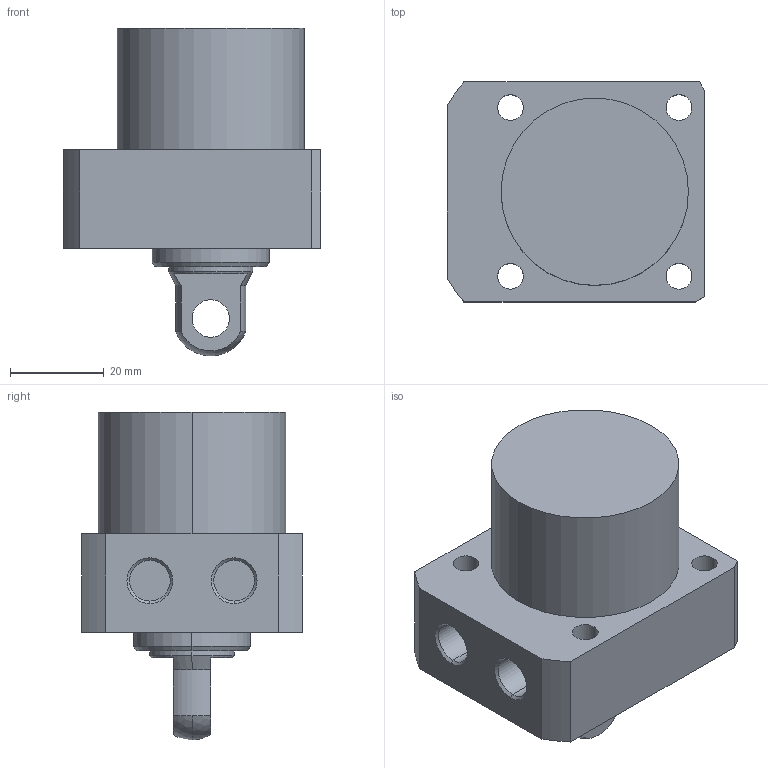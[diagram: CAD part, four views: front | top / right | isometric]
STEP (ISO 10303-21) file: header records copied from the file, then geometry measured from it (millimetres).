
FILE_DESCRIPTION (( 'STEP AP203' ), '1' );
FILE_NAME ('CLL-R040-CP-(01-014).STEP', '2017-05-10T11:20:38', ( '' ), ( '' ), 'SwSTEP 2.0', 'SolidWorks 2015', '' );
FILE_SCHEMA (( 'CONFIG_CONTROL_DESIGN' ));
Length unit declared in the file: millimetre
Products named in the file (1): CLL-R040-CP-(01-014)
Bounding box: 55 x 47 x 70 mm (x, y, z)
Volume: 86362.5 mm3; surface area: 15764.5 mm2
Topology: 1 solids, 1 shells, 57 faces, 135 edges, 87 vertices
Faces by surface type: cylinder 29, plane 18, cone 8, sphere 2
Entity records: 1770 total; most frequent: DIRECTION 319, CARTESIAN_POINT 292, ORIENTED_EDGE 270, EDGE_CURVE 135, AXIS2_PLACEMENT_3D 130, VERTEX_POINT 87, EDGE_LOOP 74, CIRCLE 72
